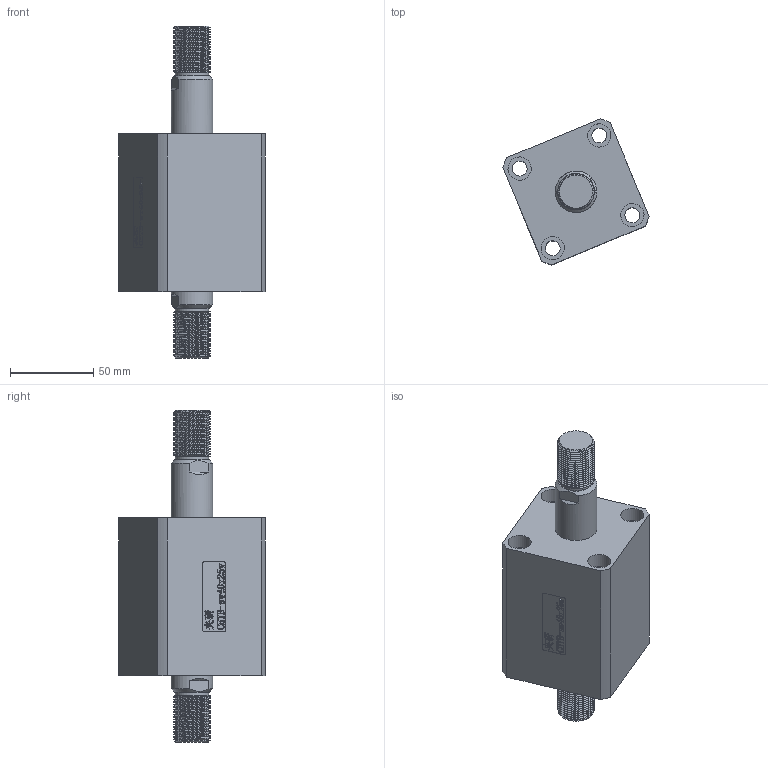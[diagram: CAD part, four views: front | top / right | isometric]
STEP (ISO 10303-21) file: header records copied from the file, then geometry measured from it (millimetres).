
FILE_DESCRIPTION(/* description */ (''),/* implementation_level */ '2;1');
FILE_NAME(/* name */ 'CHTB-sw40x25w.stp',/* time_stamp */ '2022-04-29T17:49:54+08:00',/* author */ (''),/* organization */ (''),/* preprocessor_version */ 'ST-DEVELOPER v16.7',/* originating_system */ 'SIEMENS PLM Software NX 12.0',/* authorisation */ '');
FILE_SCHEMA (('AUTOMOTIVE_DESIGN { 1 0 10303 214 3 1 1 1 }'));
Length unit declared in the file: millimetre
Products named in the file (1): CHTB-sw40x25w
Bounding box: 88.11 x 88.11 x 200 mm (x, y, z)
Volume: 450321.3 mm3; surface area: 89383.8 mm2
Topology: 3 solids, 3 shells, 479 faces, 1431 edges, 1006 vertices
Faces by surface type: plane 315, extrusion 92, cylinder 43, torus 10, bspline 10, cone 9
Full cylindrical faces by diameter (mm): 4.2 x2, 5 x2, 9 x4, 10.7 x2, 14 x8, 20 x2, 25 x4, 29 x1, 34 x2, 40 x4, 45 x1
Entity records: 26113 total; most frequent: CARTESIAN_POINT 11675, ORIENTED_EDGE 2708, DIRECTION 1920, EDGE_CURVE 1354, VERTEX_POINT 982, VECTOR 958, LINE 866, EDGE_LOOP 594
